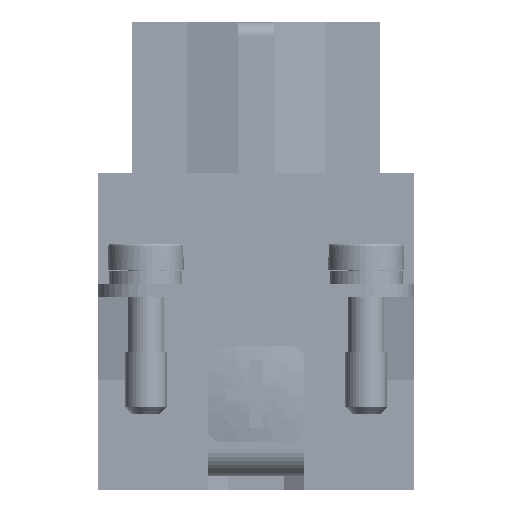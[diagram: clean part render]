
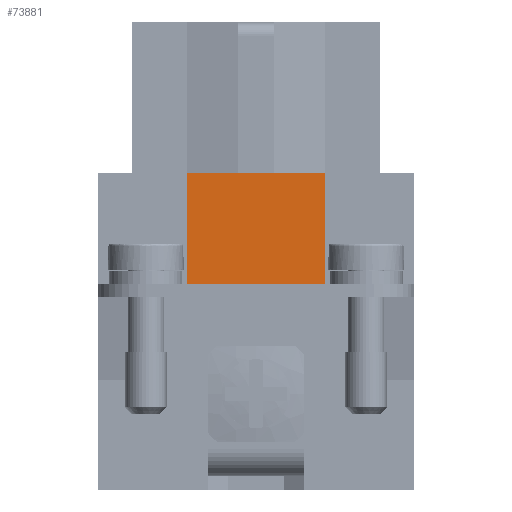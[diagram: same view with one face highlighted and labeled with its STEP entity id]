
A CAD part, left-side view. The second image highlights one B-rep face of the part: STEP entity #73881.
In plain terms, the highlighted planar face has unit normal (-1, 0, 0).
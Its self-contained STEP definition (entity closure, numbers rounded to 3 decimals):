
#71202 = EDGE_LOOP ( 'NONE', ( #73349, #74189, #74201, #74221 ) ) ;
#73349 = ORIENTED_EDGE ( 'NONE', *, *, #73397, .T. ) ;
#73397 = EDGE_CURVE ( 'NONE', #74261, #74268, #162127, .T. ) ;
#73881 = ADVANCED_FACE ( 'NONE', ( #162176 ), #162142, .T. ) ;
#74183 = VERTEX_POINT ( 'NONE', #162238 ) ;
#74189 = ORIENTED_EDGE ( 'NONE', *, *, #74336, .T. ) ;
#74201 = ORIENTED_EDGE ( 'NONE', *, *, #74365, .T. ) ;
#74212 = VERTEX_POINT ( 'NONE', #162237 ) ;
#74221 = ORIENTED_EDGE ( 'NONE', *, *, #74612, .T. ) ;
#74261 = VERTEX_POINT ( 'NONE', #162234 ) ;
#74268 = VERTEX_POINT ( 'NONE', #162233 ) ;
#74336 = EDGE_CURVE ( 'NONE', #74268, #74183, #162224, .T. ) ;
#74365 = EDGE_CURVE ( 'NONE', #74183, #74212, #162218, .T. ) ;
#74612 = EDGE_CURVE ( 'NONE', #74212, #74261, #162281, .T. ) ;
#162121 = DIRECTION ( 'NONE',  ( 0., 1., 0. ) ) ;
#162123 = VECTOR ( 'NONE', #162121, 1000. ) ;
#162125 = CARTESIAN_POINT ( 'NONE',  ( -36., 5., 0. ) ) ;
#162127 = LINE ( 'NONE', #162125, #162123 ) ;
#162138 = AXIS2_PLACEMENT_3D ( 'NONE', #162265, #162264, #162261 ) ;
#162142 = PLANE ( 'NONE',  #162138 ) ;
#162176 = FACE_OUTER_BOUND ( 'NONE', #71202, .T. ) ;
#162211 = DIRECTION ( 'NONE',  ( 0., -1., 0. ) ) ;
#162213 = VECTOR ( 'NONE', #162211, 1000. ) ;
#162215 = CARTESIAN_POINT ( 'NONE',  ( -36., 5., -8. ) ) ;
#162218 = LINE ( 'NONE', #162215, #162213 ) ;
#162220 = DIRECTION ( 'NONE',  ( 0., 0., -1. ) ) ;
#162221 = VECTOR ( 'NONE', #162220, 1000. ) ;
#162223 = CARTESIAN_POINT ( 'NONE',  ( -36., 5., 0. ) ) ;
#162224 = LINE ( 'NONE', #162223, #162221 ) ;
#162233 = CARTESIAN_POINT ( 'NONE',  ( -36., 5., 0. ) ) ;
#162234 = CARTESIAN_POINT ( 'NONE',  ( -36., -5., 0. ) ) ;
#162237 = CARTESIAN_POINT ( 'NONE',  ( -36., -5., -8. ) ) ;
#162238 = CARTESIAN_POINT ( 'NONE',  ( -36., 5., -8. ) ) ;
#162261 = DIRECTION ( 'NONE',  ( 0., 0., 1. ) ) ;
#162264 = DIRECTION ( 'NONE',  ( -1., 0., 0. ) ) ;
#162265 = CARTESIAN_POINT ( 'NONE',  ( -36., 5., 0. ) ) ;
#162276 = DIRECTION ( 'NONE',  ( 0., 0., 1. ) ) ;
#162277 = VECTOR ( 'NONE', #162276, 1000. ) ;
#162279 = CARTESIAN_POINT ( 'NONE',  ( -36., -5., 0. ) ) ;
#162281 = LINE ( 'NONE', #162279, #162277 ) ;
